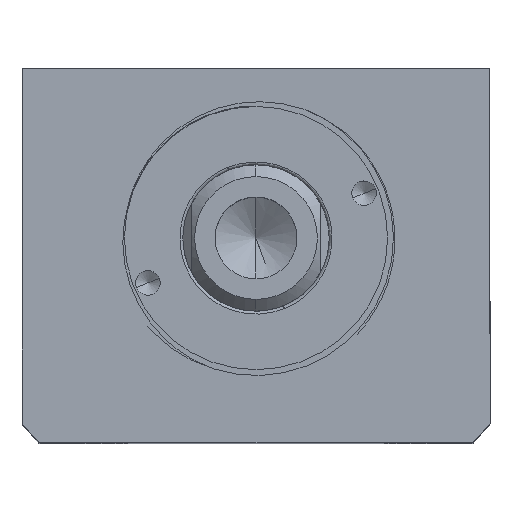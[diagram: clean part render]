
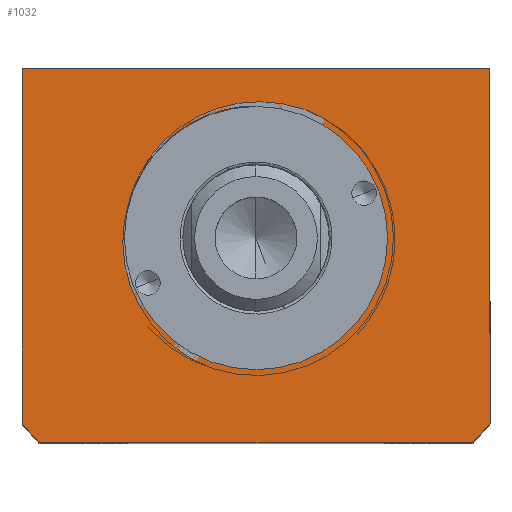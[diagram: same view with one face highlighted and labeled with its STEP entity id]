
A CAD part, top view. The second image highlights one B-rep face of the part: STEP entity #1032.
In plain terms, the highlighted planar face has unit normal (0, 0, 1).
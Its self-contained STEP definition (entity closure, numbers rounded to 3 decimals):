
#40 = CARTESIAN_POINT ( 'NONE',  ( -40., -75.507, 75. ) ) ;
#277 = DIRECTION ( 'NONE',  ( 0., -1., 0. ) ) ;
#371 = CARTESIAN_POINT ( 'NONE',  ( 40., -11.507, 75. ) ) ;
#769 = DIRECTION ( 'NONE',  ( 1., 0., 0. ) ) ;
#828 = DIRECTION ( 'NONE',  ( 0., 0., 1. ) ) ;
#909 = ORIENTED_EDGE ( 'NONE', *, *, #9036, .T. ) ;
#1032 = ADVANCED_FACE ( 'NONE', ( #3737, #1668 ), #4753, .T. ) ;
#1091 = CARTESIAN_POINT ( 'NONE',  ( -40., -11.507, 75. ) ) ;
#1171 = ORIENTED_EDGE ( 'NONE', *, *, #1949, .T. ) ;
#1311 = DIRECTION ( 'NONE',  ( 0., 0., 1. ) ) ;
#1333 = CARTESIAN_POINT ( 'NONE',  ( 40., -72.145, 75. ) ) ;
#1668 = FACE_OUTER_BOUND ( 'NONE', #3367, .T. ) ;
#1949 = EDGE_CURVE ( 'NONE', #3560, #8229, #8144, .T. ) ;
#2085 = CIRCLE ( 'NONE', #9922, 22.5 ) ;
#2210 = CARTESIAN_POINT ( 'NONE',  ( 0., -40.507, 75. ) ) ;
#2433 = DIRECTION ( 'NONE',  ( 1., 0., 0. ) ) ;
#2443 = DIRECTION ( 'NONE',  ( 1., 0., 0. ) ) ;
#2470 = DIRECTION ( 'NONE',  ( 0., 0., 1. ) ) ;
#2675 = ORIENTED_EDGE ( 'NONE', *, *, #4867, .T. ) ;
#2921 = EDGE_CURVE ( 'NONE', #5255, #7984, #7202, .T. ) ;
#3002 = DIRECTION ( 'NONE',  ( 1., 0., 0. ) ) ;
#3257 = VERTEX_POINT ( 'NONE', #371 ) ;
#3367 = EDGE_LOOP ( 'NONE', ( #1171, #5100, #909, #4130, #2675, #4920 ) ) ;
#3393 = CIRCLE ( 'NONE', #8583, 51. ) ;
#3520 = ORIENTED_EDGE ( 'NONE', *, *, #2921, .F. ) ;
#3529 = EDGE_CURVE ( 'NONE', #8229, #4208, #5469, .T. ) ;
#3560 = VERTEX_POINT ( 'NONE', #3788 ) ;
#3620 = CARTESIAN_POINT ( 'NONE',  ( -22.5, -40.507, 75. ) ) ;
#3737 = FACE_BOUND ( 'NONE', #6819, .T. ) ;
#3788 = CARTESIAN_POINT ( 'NONE',  ( -40., -11.507, 75. ) ) ;
#3901 = LINE ( 'NONE', #4440, #9170 ) ;
#3976 = AXIS2_PLACEMENT_3D ( 'NONE', #5542, #828, #6343 ) ;
#4130 = ORIENTED_EDGE ( 'NONE', *, *, #5282, .T. ) ;
#4208 = VERTEX_POINT ( 'NONE', #7738 ) ;
#4440 = CARTESIAN_POINT ( 'NONE',  ( -40., -11.507, 75. ) ) ;
#4753 = PLANE ( 'NONE',  #7645 ) ;
#4867 = EDGE_CURVE ( 'NONE', #4976, #3257, #5094, .T. ) ;
#4920 = ORIENTED_EDGE ( 'NONE', *, *, #8616, .T. ) ;
#4965 = CARTESIAN_POINT ( 'NONE',  ( 0., 0., 75. ) ) ;
#4976 = VERTEX_POINT ( 'NONE', #1333 ) ;
#5094 = LINE ( 'NONE', #6645, #10001 ) ;
#5100 = ORIENTED_EDGE ( 'NONE', *, *, #3529, .T. ) ;
#5255 = VERTEX_POINT ( 'NONE', #3620 ) ;
#5282 = EDGE_CURVE ( 'NONE', #8429, #4976, #3393, .T. ) ;
#5469 = CIRCLE ( 'NONE', #7066, 51. ) ;
#5495 = DIRECTION ( 'NONE',  ( 0., 0., 1. ) ) ;
#5542 = CARTESIAN_POINT ( 'NONE',  ( 0., -40.507, 75. ) ) ;
#5870 = VECTOR ( 'NONE', #2443, 1000. ) ;
#6017 = CARTESIAN_POINT ( 'NONE',  ( 0., -40.507, 75. ) ) ;
#6072 = VECTOR ( 'NONE', #277, 1000. ) ;
#6343 = DIRECTION ( 'NONE',  ( 1., 0., 0. ) ) ;
#6645 = CARTESIAN_POINT ( 'NONE',  ( 40., -11.507, 75. ) ) ;
#6791 = DIRECTION ( 'NONE',  ( 1., 0., 0. ) ) ;
#6802 = DIRECTION ( 'NONE',  ( -1., 0., 0. ) ) ;
#6819 = EDGE_LOOP ( 'NONE', ( #9773, #3520 ) ) ;
#7066 = AXIS2_PLACEMENT_3D ( 'NONE', #2210, #7687, #3002 ) ;
#7191 = EDGE_CURVE ( 'NONE', #7984, #5255, #2085, .T. ) ;
#7202 = CIRCLE ( 'NONE', #3976, 22.5 ) ;
#7645 = AXIS2_PLACEMENT_3D ( 'NONE', #4965, #2470, #2433 ) ;
#7646 = CARTESIAN_POINT ( 'NONE',  ( 22.5, -40.507, 75. ) ) ;
#7687 = DIRECTION ( 'NONE',  ( 0., 0., 1. ) ) ;
#7738 = CARTESIAN_POINT ( 'NONE',  ( -37.094, -75.507, 75. ) ) ;
#7925 = LINE ( 'NONE', #40, #5870 ) ;
#7984 = VERTEX_POINT ( 'NONE', #7646 ) ;
#8144 = LINE ( 'NONE', #1091, #6072 ) ;
#8223 = DIRECTION ( 'NONE',  ( 0., 1., 0. ) ) ;
#8224 = CARTESIAN_POINT ( 'NONE',  ( -40., -72.145, 75. ) ) ;
#8229 = VERTEX_POINT ( 'NONE', #8224 ) ;
#8429 = VERTEX_POINT ( 'NONE', #10165 ) ;
#8583 = AXIS2_PLACEMENT_3D ( 'NONE', #6017, #1311, #6791 ) ;
#8616 = EDGE_CURVE ( 'NONE', #3257, #3560, #3901, .T. ) ;
#9036 = EDGE_CURVE ( 'NONE', #4208, #8429, #7925, .T. ) ;
#9170 = VECTOR ( 'NONE', #6802, 1000. ) ;
#9773 = ORIENTED_EDGE ( 'NONE', *, *, #7191, .F. ) ;
#9922 = AXIS2_PLACEMENT_3D ( 'NONE', #10189, #5495, #769 ) ;
#10001 = VECTOR ( 'NONE', #8223, 1000. ) ;
#10165 = CARTESIAN_POINT ( 'NONE',  ( 37.094, -75.507, 75. ) ) ;
#10189 = CARTESIAN_POINT ( 'NONE',  ( 0., -40.507, 75. ) ) ;
